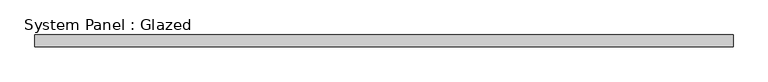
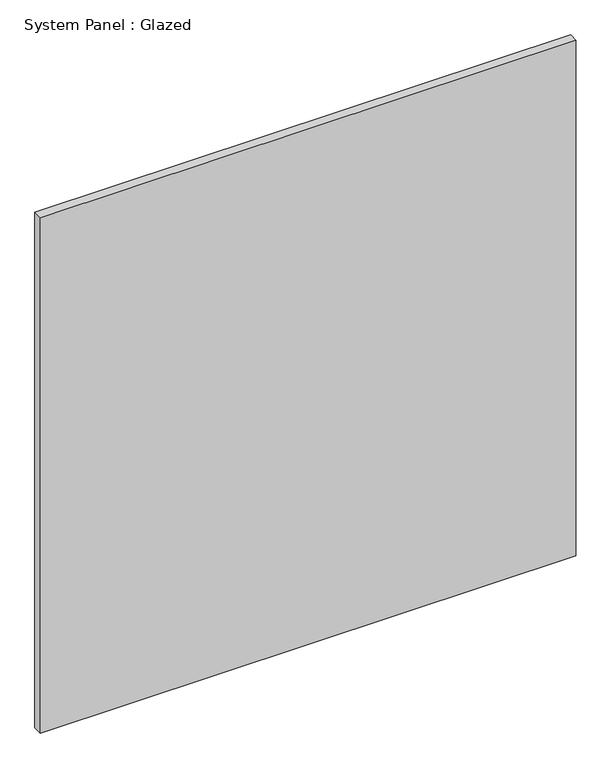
"""IFC4 building model written with IfcOpenShell, lengths in millimetres: plate geometry, System Panel : Glazed."""

from ifc_helpers import new_model, si_unit, origin, origin_with_axes, place, context, project, spatial, polyline, outline, extrude, source, transform, mapped, element, save


def system_panel_glazed_437d720c(model_context):
    return source(origin(), model_context, "Body", "SweptSolid", [
        extrude(outline(polyline([(724.5000002, 24.5), (-724.5000002, 24.5), (-724.5000002, 49.5), (724.5000002, 49.5), (724.5000002, 24.5)])), origin_with_axes(), (0.0, 0.0, 1.0), 1474.0),
    ])


if __name__ == "__main__":
    model = new_model("IFC4")
    model_context = context("Model", 3, world=origin())
    ifc_project = project(units=[si_unit("LENGTHUNIT", "METRE", prefix="MILLI")], contexts=[model_context])
    site = spatial("IfcSite", under=ifc_project)
    building = spatial("IfcBuilding", under=site)
    placement = place(None, origin())
    system_panel_glazed_shape = system_panel_glazed_437d720c(model_context)
    element("IfcPlate", 1, ObjectType="System Panel : Glazed", at=placement, inside=building, context=model_context, shape_type="MappedRepresentation", body=[
        mapped(system_panel_glazed_shape, transform((0.0, 0.0, 0.0), x_axis=(1.0, 0.0, 0.0), y_axis=(0.0, 1.0, 0.0), z_axis=(0.0, 0.0, 1.0))),
    ])
    save(model, "model.ifc")
